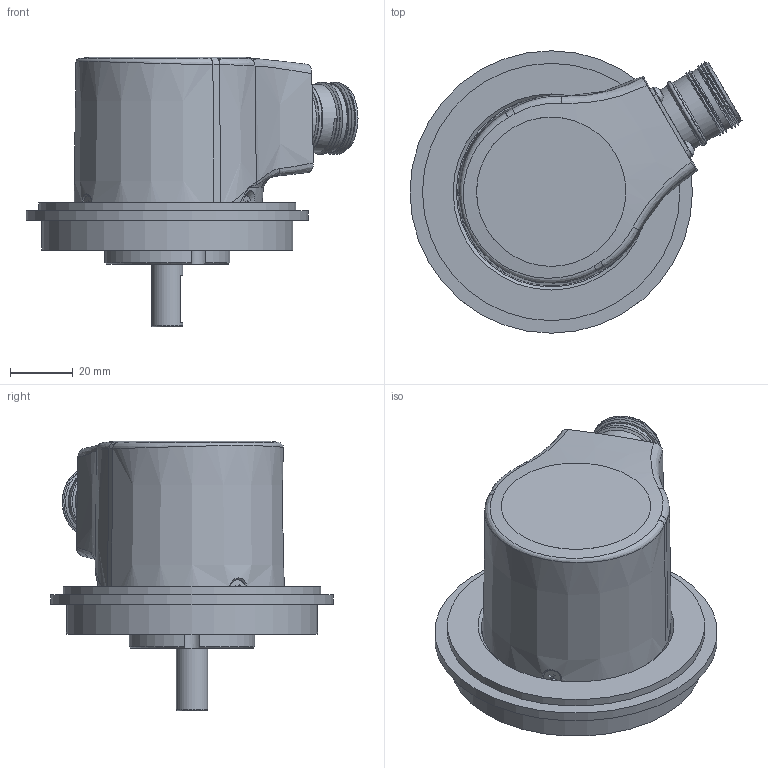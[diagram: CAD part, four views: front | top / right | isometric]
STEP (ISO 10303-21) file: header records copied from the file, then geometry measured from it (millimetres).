
FILE_DESCRIPTION(/* description */ ('Unknown'),/* implementation_level */ '2;1');
FILE_NAME(/* name */ 'EAR_EAMR_90_A_HAR',/* time_stamp */ '2018-04-20T11:02:04+02:00',/* author */ ('Unknown'),/* organization */ ('Unknown'),/* preprocessor_version */ 'ST-DEVELOPER v16.7',/* originating_system */ 'DEX',/* authorisation */ $);
FILE_SCHEMA (('AUTOMOTIVE_DESIGN {1 0 10303 214 3 1 1}'));
Length unit declared in the file: millimetre
Products named in the file (1): tmpEAR_EAMR_90_A_HAR
Bounding box: 105.8 x 90 x 86 mm (x, y, z)
Volume: 131589.9 mm3; surface area: 58361.3 mm2
Topology: 2 solids, 18 shells, 512 faces, 1260 edges, 825 vertices
Faces by surface type: plane 239, cylinder 142, cone 76, torus 22, bspline 21, sphere 12
Full cylindrical faces by diameter (mm): 1 x12, 1.15 x12, 1.65 x12, 2.013 x7, 2.459 x10, 3 x10, 3.1 x4, 3.4 x3, 4.2 x3, 5 x3, 5.6 x3, 6 x4, 8 x6, 10 x1, 10.4 x1, 18.5 x1, 19.25 x1, 20 x1, 21.5 x6, 22 x3, 22.1 x2, 22.667 x1, 22.691 x1, 29 x2, 51.2 x1, 54 x3, 56 x1, 59.5 x1, 60.5 x1, 80 x1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
Entity records: 19840 total; most frequent: CARTESIAN_POINT 6228, DIRECTION 2055, ORIENTED_EDGE 1738, AXIS2_PLACEMENT_3D 879, EDGE_CURVE 869, FACE_BOUND 821, EDGE_LOOP 797, VERTEX_POINT 692
